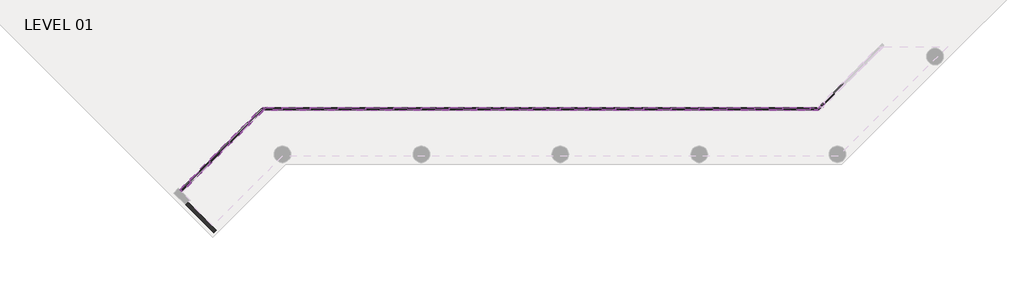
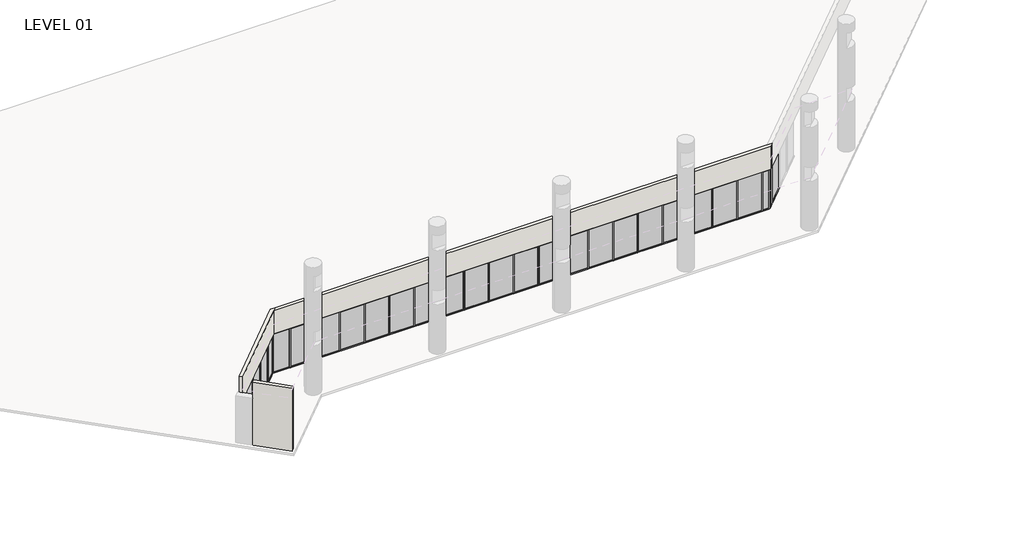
# One storey, part 1 of 24: 84 members, 28 plates, 3 walls.
"""IFC4 building model written with IfcOpenShell, lengths in millimetres."""

from ifc_helpers import new_model, si_unit, origin, origin_with_axes, place, context, project, spatial, polyline, outline, extrude, faceted_brep, transform, mapped, element, save
from components import member_5247f267, member_ed5eb8ce, member_16770488, member_1d3a199d, member_e44af9ab, member_800970d4, member_224475ab, plate_ce959b8d, plate_67294edd, plate_53ca565f, plate_8062c6fe, plate_43a54168, plate_1cd28498

model = new_model("IFC4")

# Units and contexts
model_context = context("Model", 3, world=origin())
ifc_project = project(units=[si_unit("LENGTHUNIT", "METRE", prefix="MILLI")], contexts=[model_context])

# Site, building, storey
site = spatial("IfcSite", under=ifc_project)
building = spatial("IfcBuilding", under=site)
storey = spatial("IfcBuildingStorey", under=building, Name="LEVEL 01", Elevation=0.0)

# Members
placement = place(None, origin())
member_shape = member_5247f267(model_context)
element("IfcMember", 1, ObjectType="Rectangular Mullion : 2\" x 4.5\" rectangular", at=placement, inside=storey, context=model_context, shape_type="MappedRepresentation", body=[
    mapped(member_shape, transform((18421.35, -2101.1671279, 0.0), x_axis=(0.0, 0.0, -1.0), y_axis=(0.0, -1.0, 0.0), z_axis=(-1.0, 0.0, 0.0))),
])
element("IfcMember", 2, ObjectType="Rectangular Mullion : 2\" x 4.5\" rectangular", at=placement, inside=storey, context=model_context, shape_type="MappedRepresentation", body=[
    mapped(member_shape, transform((19945.35, -2101.1671279, 0.0), x_axis=(0.0, 0.0, -1.0), y_axis=(0.0, -1.0, 0.0), z_axis=(-1.0, 0.0, 0.0))),
])
element("IfcMember", 3, ObjectType="Rectangular Mullion : 2\" x 4.5\" rectangular", at=placement, inside=storey, context=model_context, shape_type="MappedRepresentation", body=[
    mapped(member_shape, transform((24517.35, -2101.1671279, 0.0), x_axis=(0.0, 0.0, -1.0), y_axis=(0.0, -1.0, 0.0), z_axis=(-1.0, 0.0, 0.0))),
])
element("IfcMember", 4, ObjectType="Rectangular Mullion : 2\" x 4.5\" rectangular", at=placement, inside=storey, context=model_context, shape_type="MappedRepresentation", body=[
    mapped(member_shape, transform((16546.0133481, -2877.9592824, 0.0), x_axis=(0.0, 0.0, -1.0), y_axis=(-0.7071067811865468, 0.7071067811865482, 0.0), z_axis=(0.7071067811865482, 0.7071067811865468, 0.0))),
])
element("IfcMember", 5, ObjectType="Rectangular Mullion : 2\" x 4.5\" rectangular", at=placement, inside=storey, context=model_context, shape_type="MappedRepresentation", body=[
    mapped(member_shape, transform((26041.35, -2101.1671279, 0.0), x_axis=(0.0, 0.0, -1.0), y_axis=(0.0, -1.0, 0.0), z_axis=(-1.0, 0.0, 0.0))),
])
element("IfcMember", 6, ObjectType="Rectangular Mullion : 2\" x 4.5\" rectangular", at=placement, inside=storey, context=model_context, shape_type="MappedRepresentation", body=[
    mapped(member_shape, transform((30613.35, -2101.1671279, 0.0), x_axis=(0.0, 0.0, -1.0), y_axis=(0.0, -1.0, 0.0), z_axis=(-1.0, 0.0, 0.0))),
])
element("IfcMember", 7, ObjectType="Rectangular Mullion : 2\" x 4.5\" rectangular", at=placement, inside=storey, context=model_context, shape_type="MappedRepresentation", body=[
    mapped(member_shape, transform((32137.35, -2101.1671279, 0.0), x_axis=(0.0, 0.0, -1.0), y_axis=(0.0, -1.0, 0.0), z_axis=(-1.0, 0.0, 0.0))),
])
element("IfcMember", 8, ObjectType="Rectangular Mullion : 2\" x 4.5\" rectangular", at=placement, inside=storey, context=model_context, shape_type="MappedRepresentation", body=[
    mapped(member_shape, transform((35185.35, -2101.1671279, 0.0), x_axis=(0.0, 0.0, -1.0), y_axis=(0.0, -1.0, 0.0), z_axis=(-1.0, 0.0, 0.0))),
])
element("IfcMember", 9, ObjectType="Rectangular Mullion : 2\" x 4.5\" rectangular", at=placement, inside=storey, context=model_context, shape_type="MappedRepresentation", body=[
    mapped(member_shape, transform((38233.35, -2101.1671279, 0.0), x_axis=(0.0, 0.0, -1.0), y_axis=(0.0, -1.0, 0.0), z_axis=(-1.0, 0.0, 0.0))),
])
element("IfcMember", 10, ObjectType="Rectangular Mullion : 2\" x 4.5\" rectangular", at=placement, inside=storey, context=model_context, shape_type="MappedRepresentation", body=[
    mapped(member_shape, transform((41281.35, -2101.1671279, 0.0), x_axis=(0.0, 0.0, -1.0), y_axis=(0.0, -1.0, 0.0), z_axis=(-1.0, 0.0, 0.0))),
])
element("IfcMember", 11, ObjectType="Rectangular Mullion : 2\" x 4.5\" rectangular", at=placement, inside=storey, context=model_context, shape_type="MappedRepresentation", body=[
    mapped(member_shape, transform((45853.35, -2101.1671279, 0.0), x_axis=(0.0, 0.0, -1.0), y_axis=(0.0, -1.0, 0.0), z_axis=(-1.0, 0.0, 0.0))),
])
element("IfcMember", 12, ObjectType="Rectangular Mullion : 2\" x 4.5\" rectangular", at=placement, inside=storey, context=model_context, shape_type="MappedRepresentation", body=[
    mapped(member_shape, transform((14390.7518791, -5033.2207514, 0.0), x_axis=(0.0, 0.0, -1.0), y_axis=(-0.7071067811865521, 0.707106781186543, 0.0), z_axis=(0.707106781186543, 0.7071067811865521, 0.0))),
])
element("IfcMember", 13, ObjectType="Rectangular Mullion : 2\" x 4.5\" rectangular", at=placement, inside=storey, context=model_context, shape_type="MappedRepresentation", body=[
    mapped(member_shape, transform((21469.35, -2101.1671279, 0.0), x_axis=(0.0, 0.0, -1.0), y_axis=(0.0, -1.0, 0.0), z_axis=(-1.0, 0.0, 0.0))),
])
element("IfcMember", 14, ObjectType="Rectangular Mullion : 2\" x 4.5\" rectangular", at=placement, inside=storey, context=model_context, shape_type="MappedRepresentation", body=[
    mapped(member_shape, transform((22993.35, -2101.1671279, 0.0), x_axis=(0.0, 0.0, -1.0), y_axis=(0.0, -1.0, 0.0), z_axis=(-1.0, 0.0, 0.0))),
])
element("IfcMember", 15, ObjectType="Rectangular Mullion : 2\" x 4.5\" rectangular", at=placement, inside=storey, context=model_context, shape_type="MappedRepresentation", body=[
    mapped(member_shape, transform((27565.35, -2101.1671279, 0.0), x_axis=(0.0, 0.0, -1.0), y_axis=(0.0, -1.0, 0.0), z_axis=(-1.0, 0.0, 0.0))),
])
element("IfcMember", 16, ObjectType="Rectangular Mullion : 2\" x 4.5\" rectangular", at=placement, inside=storey, context=model_context, shape_type="MappedRepresentation", body=[
    mapped(member_shape, transform((29089.35, -2101.1671279, 0.0), x_axis=(0.0, 0.0, -1.0), y_axis=(0.0, -1.0, 0.0), z_axis=(-1.0, 0.0, 0.0))),
])
element("IfcMember", 17, ObjectType="Rectangular Mullion : 2\" x 4.5\" rectangular", at=placement, inside=storey, context=model_context, shape_type="MappedRepresentation", body=[
    mapped(member_shape, transform((33661.35, -2101.1671279, 0.0), x_axis=(0.0, 0.0, -1.0), y_axis=(0.0, -1.0, 0.0), z_axis=(-1.0, 0.0, 0.0))),
])
element("IfcMember", 18, ObjectType="Rectangular Mullion : 2\" x 4.5\" rectangular", at=placement, inside=storey, context=model_context, shape_type="MappedRepresentation", body=[
    mapped(member_shape, transform((36709.35, -2101.1671279, 0.0), x_axis=(0.0, 0.0, -1.0), y_axis=(0.0, -1.0, 0.0), z_axis=(-1.0, 0.0, 0.0))),
])
element("IfcMember", 19, ObjectType="Rectangular Mullion : 2\" x 4.5\" rectangular", at=placement, inside=storey, context=model_context, shape_type="MappedRepresentation", body=[
    mapped(member_shape, transform((39757.35, -2101.1671279, 0.0), x_axis=(0.0, 0.0, -1.0), y_axis=(0.0, -1.0, 0.0), z_axis=(-1.0, 0.0, 0.0))),
])
element("IfcMember", 20, ObjectType="Rectangular Mullion : 2\" x 4.5\" rectangular", at=placement, inside=storey, context=model_context, shape_type="MappedRepresentation", body=[
    mapped(member_shape, transform((42805.35, -2101.1671279, 0.0), x_axis=(0.0, 0.0, -1.0), y_axis=(0.0, -1.0, 0.0), z_axis=(-1.0, 0.0, 0.0))),
])
element("IfcMember", 21, ObjectType="Rectangular Mullion : 2\" x 4.5\" rectangular", at=placement, inside=storey, context=model_context, shape_type="MappedRepresentation", body=[
    mapped(member_shape, transform((44329.35, -2101.1671279, 0.0), x_axis=(0.0, 0.0, -1.0), y_axis=(0.0, -1.0, 0.0), z_axis=(-1.0, 0.0, 0.0))),
])
element("IfcMember", 22, ObjectType="Rectangular Mullion : 2\" x 4.5\" rectangular", at=placement, inside=storey, context=model_context, shape_type="MappedRepresentation", body=[
    mapped(member_shape, transform((48139.3903254, -1764.5823051, 0.0), x_axis=(0.0, 0.0, -1.0), y_axis=(0.7071067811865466, -0.7071067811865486, 0.0), z_axis=(-0.7071067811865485, -0.7071067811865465, 0.0))),
])
element("IfcMember", 23, ObjectType="Rectangular Mullion : 2\" x 4.5\" rectangular", at=placement, inside=storey, context=model_context, shape_type="MappedRepresentation", body=[
    mapped(member_shape, transform((15468.3826136, -3955.5900169, 0.0), x_axis=(0.0, 0.0, -1.0), y_axis=(-0.7071067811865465, 0.7071067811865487, 0.0), z_axis=(0.7071067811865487, 0.7071067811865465, 0.0))),
])
element("IfcMember", 24, ObjectType="Rectangular Mullion : 2\" x 4.5\" rectangular", at=placement, inside=storey, context=model_context, shape_type="MappedRepresentation", body=[
    mapped(member_shape, transform((19894.55, -2101.1671279, 2590.8), x_axis=(0.0, 0.0, 1.0), y_axis=(0.0, -1.0, 0.0), z_axis=(1.0, 0.0, 0.0))),
])
element("IfcMember", 25, ObjectType="Rectangular Mullion : 2\" x 4.5\" rectangular", at=placement, inside=storey, context=model_context, shape_type="MappedRepresentation", body=[
    mapped(member_shape, transform((24466.55, -2101.1671279, 2590.8), x_axis=(0.0, 0.0, 1.0), y_axis=(0.0, -1.0, 0.0), z_axis=(1.0, 0.0, 0.0))),
])
element("IfcMember", 26, ObjectType="Rectangular Mullion : 2\" x 4.5\" rectangular", at=placement, inside=storey, context=model_context, shape_type="MappedRepresentation", body=[
    mapped(member_shape, transform((25990.55, -2101.1671279, 2590.8), x_axis=(0.0, 0.0, 1.0), y_axis=(0.0, -1.0, 0.0), z_axis=(1.0, 0.0, 0.0))),
])
element("IfcMember", 27, ObjectType="Rectangular Mullion : 2\" x 4.5\" rectangular", at=placement, inside=storey, context=model_context, shape_type="MappedRepresentation", body=[
    mapped(member_shape, transform((30562.55, -2101.1671279, 2590.8), x_axis=(0.0, 0.0, 1.0), y_axis=(0.0, -1.0, 0.0), z_axis=(1.0, 0.0, 0.0))),
])
element("IfcMember", 28, ObjectType="Rectangular Mullion : 2\" x 4.5\" rectangular", at=placement, inside=storey, context=model_context, shape_type="MappedRepresentation", body=[
    mapped(member_shape, transform((32086.55, -2101.1671279, 2590.8), x_axis=(0.0, 0.0, 1.0), y_axis=(0.0, -1.0, 0.0), z_axis=(1.0, 0.0, 0.0))),
])
element("IfcMember", 29, ObjectType="Rectangular Mullion : 2\" x 4.5\" rectangular", at=placement, inside=storey, context=model_context, shape_type="MappedRepresentation", body=[
    mapped(member_shape, transform((35134.55, -2101.1671279, 2590.8), x_axis=(0.0, 0.0, 1.0), y_axis=(0.0, -1.0, 0.0), z_axis=(1.0, 0.0, 0.0))),
])
element("IfcMember", 30, ObjectType="Rectangular Mullion : 2\" x 4.5\" rectangular", at=placement, inside=storey, context=model_context, shape_type="MappedRepresentation", body=[
    mapped(member_shape, transform((38182.55, -2101.1671279, 2590.8), x_axis=(0.0, 0.0, 1.0), y_axis=(0.0, -1.0, 0.0), z_axis=(1.0, 0.0, 0.0))),
])
element("IfcMember", 31, ObjectType="Rectangular Mullion : 2\" x 4.5\" rectangular", at=placement, inside=storey, context=model_context, shape_type="MappedRepresentation", body=[
    mapped(member_shape, transform((41230.55, -2101.1671279, 2590.8), x_axis=(0.0, 0.0, 1.0), y_axis=(0.0, -1.0, 0.0), z_axis=(1.0, 0.0, 0.0))),
])
element("IfcMember", 32, ObjectType="Rectangular Mullion : 2\" x 4.5\" rectangular", at=placement, inside=storey, context=model_context, shape_type="MappedRepresentation", body=[
    mapped(member_shape, transform((45802.55, -2101.1671279, 2590.8), x_axis=(0.0, 0.0, 1.0), y_axis=(0.0, -1.0, 0.0), z_axis=(1.0, 0.0, 0.0))),
])
element("IfcMember", 33, ObjectType="Rectangular Mullion : 2\" x 4.5\" rectangular", at=placement, inside=storey, context=model_context, shape_type="MappedRepresentation", body=[
    mapped(member_shape, transform((14426.6729036, -4997.2997269, 2590.8), x_axis=(0.0, 0.0, 1.0), y_axis=(-0.7071067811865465, 0.7071067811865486, 0.0), z_axis=(-0.7071067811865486, -0.7071067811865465, 0.0))),
])
element("IfcMember", 34, ObjectType="Rectangular Mullion : 2\" x 4.5\" rectangular", at=placement, inside=storey, context=model_context, shape_type="MappedRepresentation", body=[
    mapped(member_shape, transform((21418.55, -2101.1671279, 2590.8), x_axis=(0.0, 0.0, 1.0), y_axis=(0.0, -1.0, 0.0), z_axis=(1.0, 0.0, 0.0))),
])
element("IfcMember", 35, ObjectType="Rectangular Mullion : 2\" x 4.5\" rectangular", at=placement, inside=storey, context=model_context, shape_type="MappedRepresentation", body=[
    mapped(member_shape, transform((22942.55, -2101.1671279, 2590.8), x_axis=(0.0, 0.0, 1.0), y_axis=(0.0, -1.0, 0.0), z_axis=(1.0, 0.0, 0.0))),
])
element("IfcMember", 36, ObjectType="Rectangular Mullion : 2\" x 4.5\" rectangular", at=placement, inside=storey, context=model_context, shape_type="MappedRepresentation", body=[
    mapped(member_shape, transform((27514.55, -2101.1671279, 2590.8), x_axis=(0.0, 0.0, 1.0), y_axis=(0.0, -1.0, 0.0), z_axis=(1.0, 0.0, 0.0))),
])
element("IfcMember", 37, ObjectType="Rectangular Mullion : 2\" x 4.5\" rectangular", at=placement, inside=storey, context=model_context, shape_type="MappedRepresentation", body=[
    mapped(member_shape, transform((29038.55, -2101.1671279, 2590.8), x_axis=(0.0, 0.0, 1.0), y_axis=(0.0, -1.0, 0.0), z_axis=(1.0, 0.0, 0.0))),
])
element("IfcMember", 38, ObjectType="Rectangular Mullion : 2\" x 4.5\" rectangular", at=placement, inside=storey, context=model_context, shape_type="MappedRepresentation", body=[
    mapped(member_shape, transform((33610.55, -2101.1671279, 2590.8), x_axis=(0.0, 0.0, 1.0), y_axis=(0.0, -1.0, 0.0), z_axis=(1.0, 0.0, 0.0))),
])
element("IfcMember", 39, ObjectType="Rectangular Mullion : 2\" x 4.5\" rectangular", at=placement, inside=storey, context=model_context, shape_type="MappedRepresentation", body=[
    mapped(member_shape, transform((36658.55, -2101.1671279, 2590.8), x_axis=(0.0, 0.0, 1.0), y_axis=(0.0, -1.0, 0.0), z_axis=(1.0, 0.0, 0.0))),
])
element("IfcMember", 40, ObjectType="Rectangular Mullion : 2\" x 4.5\" rectangular", at=placement, inside=storey, context=model_context, shape_type="MappedRepresentation", body=[
    mapped(member_shape, transform((39706.55, -2101.1671279, 2590.8), x_axis=(0.0, 0.0, 1.0), y_axis=(0.0, -1.0, 0.0), z_axis=(1.0, 0.0, 0.0))),
])
element("IfcMember", 41, ObjectType="Rectangular Mullion : 2\" x 4.5\" rectangular", at=placement, inside=storey, context=model_context, shape_type="MappedRepresentation", body=[
    mapped(member_shape, transform((42754.55, -2101.1671279, 2590.8), x_axis=(0.0, 0.0, 1.0), y_axis=(0.0, -1.0, 0.0), z_axis=(1.0, 0.0, 0.0))),
])
element("IfcMember", 42, ObjectType="Rectangular Mullion : 2\" x 4.5\" rectangular", at=placement, inside=storey, context=model_context, shape_type="MappedRepresentation", body=[
    mapped(member_shape, transform((44278.55, -2101.1671279, 2590.8), x_axis=(0.0, 0.0, 1.0), y_axis=(0.0, -1.0, 0.0), z_axis=(1.0, 0.0, 0.0))),
])
element("IfcMember", 43, ObjectType="Rectangular Mullion : 2\" x 4.5\" rectangular", at=placement, inside=storey, context=model_context, shape_type="MappedRepresentation", body=[
    mapped(member_shape, transform((47326.55, -2101.1671279, 2590.8), x_axis=(0.0, 0.0, 1.0), y_axis=(0.0, -1.0, 0.0), z_axis=(1.0, 0.0, 0.0))),
])
element("IfcMember", 44, ObjectType="Rectangular Mullion : 2\" x 4.5\" rectangular", at=placement, inside=storey, context=model_context, shape_type="MappedRepresentation", body=[
    mapped(member_shape, transform((15504.3036381, -3919.6689924, 2590.8), x_axis=(0.0, 0.0, 1.0), y_axis=(-0.7071067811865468, 0.7071067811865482, 0.0), z_axis=(-0.7071067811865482, -0.7071067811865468, 0.0))),
])
element("IfcMember", 45, ObjectType="Rectangular Mullion : 2\" x 4.5\" rectangular", at=placement, inside=storey, context=model_context, shape_type="MappedRepresentation", body=[
    mapped(member_shape, transform((13349.042169, -6074.9304615, 2590.8), x_axis=(0.0, 0.0, 1.0), y_axis=(-0.7071067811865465, 0.7071067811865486, 0.0), z_axis=(-0.7071067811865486, -0.7071067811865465, 0.0))),
])
member_2_shape = member_ed5eb8ce(model_context)
element("IfcMember", 46, ObjectType="Rectangular Mullion : 2\" x 4.5\" rectangular", at=placement, inside=storey, context=model_context, shape_type="MappedRepresentation", body=[
    mapped(member_2_shape, transform((18370.55, -2101.1671279, 2590.8), x_axis=(0.0, 0.0, 1.0), y_axis=(0.0, -1.0, 0.0), z_axis=(1.0, 0.0, 0.0))),
])
element("IfcMember", 47, ObjectType="Rectangular Mullion : 2\" x 4.5\" rectangular", at=placement, inside=storey, context=model_context, shape_type="MappedRepresentation", body=[
    mapped(member_2_shape, transform((16581.9343726, -2842.0382579, 2590.8), x_axis=(0.0, 0.0, 1.0), y_axis=(-0.7071067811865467, 0.7071067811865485, 0.0), z_axis=(-0.7071067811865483, -0.7071067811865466, 0.0))),
])
element("IfcMember", 48, ObjectType="Rectangular Mullion : 2\" x 4.5\" rectangular", at=placement, inside=storey, context=model_context, shape_type="MappedRepresentation", body=[
    mapped(member_2_shape, transform((17373.6055026, -2101.1671279, 0.0), x_axis=(0.0, 0.0, -1.0), y_axis=(0.0, -1.0, 0.0), z_axis=(-1.0, 0.0, 0.0))),
])
element("IfcMember", 49, ObjectType="Rectangular Mullion : 2\" x 4.5\" rectangular", at=placement, inside=storey, context=model_context, shape_type="MappedRepresentation", body=[
    mapped(member_2_shape, transform((17286.8844781, -2137.0881524, 0.0), x_axis=(0.0, 0.0, -1.0), y_axis=(-0.7071067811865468, 0.7071067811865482, 0.0), z_axis=(0.7071067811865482, 0.7071067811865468, 0.0))),
])
member_3_shape = member_16770488(model_context)
element("IfcMember", 50, ObjectType="Rectangular Mullion : 2\" x 4.5\" rectangular", at=placement, inside=storey, context=model_context, shape_type="MappedRepresentation", body=[
    mapped(member_3_shape, transform((47752.0055026, -2101.1671279, 2590.8), x_axis=(0.0, 0.0, 1.0), y_axis=(0.0, -1.0, 0.0), z_axis=(1.0, 0.0, 0.0))),
])
element("IfcMember", 51, ObjectType="Rectangular Mullion : 2\" x 4.5\" rectangular", at=placement, inside=storey, context=model_context, shape_type="MappedRepresentation", body=[
    mapped(member_3_shape, transform((47377.35, -2101.1671279, 0.0), x_axis=(0.0, 0.0, -1.0), y_axis=(0.0, -1.0, 0.0), z_axis=(-1.0, 0.0, 0.0))),
])
member_4_shape = member_1d3a199d(model_context)
element("IfcMember", 52, ObjectType="Rectangular Mullion : 2\" x 4.5\" rectangular", at=placement, inside=storey, context=model_context, shape_type="MappedRepresentation", body=[
    mapped(member_4_shape, transform((47838.7265271, -2065.2461034, 0.0), x_axis=(0.0, 0.0, -1.0), y_axis=(0.7071067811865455, -0.7071067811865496, 0.0), z_axis=(-0.7071067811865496, -0.7071067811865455, 0.0))),
])
element("IfcMember", 53, ObjectType="Rectangular Mullion : 2\" x 4.5\" rectangular", at=placement, inside=storey, context=model_context, shape_type="MappedRepresentation", body=[
    mapped(member_4_shape, transform((48103.4693009, -1800.5033295, 2590.8), x_axis=(0.0, 0.0, 1.0), y_axis=(0.7071067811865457, -0.7071067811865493, 0.0), z_axis=(0.7071067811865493, 0.7071067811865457, 0.0))),
])
member_5_shape = member_e44af9ab(model_context)
element("IfcMember", 54, ObjectType="Rectangular Mullion : 2\" x 4.5\" rectangular", at=placement, inside=storey, context=model_context, shape_type="MappedRepresentation", body=[
    mapped(member_5_shape, transform((18395.95, -2101.1671279, 0.0), x_axis=(1.0, 0.0, 0.0), y_axis=(0.0, -1.0, 0.0), z_axis=(0.0, 0.0, -1.0))),
])
element("IfcMember", 55, ObjectType="Rectangular Mullion : 2\" x 4.5\" rectangular", at=placement, inside=storey, context=model_context, shape_type="MappedRepresentation", body=[
    mapped(member_5_shape, transform((19919.95, -2101.1671279, 0.0), x_axis=(1.0, 0.0, 0.0), y_axis=(0.0, -1.0, 0.0), z_axis=(0.0, 0.0, -1.0))),
])
element("IfcMember", 56, ObjectType="Rectangular Mullion : 2\" x 4.5\" rectangular", at=placement, inside=storey, context=model_context, shape_type="MappedRepresentation", body=[
    mapped(member_5_shape, transform((24491.95, -2101.1671279, 0.0), x_axis=(1.0, 0.0, 0.0), y_axis=(0.0, -1.0, 0.0), z_axis=(0.0, 0.0, -1.0))),
])
element("IfcMember", 57, ObjectType="Rectangular Mullion : 2\" x 4.5\" rectangular", at=placement, inside=storey, context=model_context, shape_type="MappedRepresentation", body=[
    mapped(member_5_shape, transform((16563.9738604, -2859.9987701, 0.0), x_axis=(-0.7071067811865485, -0.7071067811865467, 0.0), y_axis=(-0.7071067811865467, 0.7071067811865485, 0.0), z_axis=(0.0, 0.0, -1.0))),
])
element("IfcMember", 58, ObjectType="Rectangular Mullion : 2\" x 4.5\" rectangular", at=placement, inside=storey, context=model_context, shape_type="MappedRepresentation", body=[
    mapped(member_5_shape, transform((26015.95, -2101.1671279, 0.0), x_axis=(1.0, 0.0, 0.0), y_axis=(0.0, -1.0, 0.0), z_axis=(0.0, 0.0, -1.0))),
])
element("IfcMember", 59, ObjectType="Rectangular Mullion : 2\" x 4.5\" rectangular", at=placement, inside=storey, context=model_context, shape_type="MappedRepresentation", body=[
    mapped(member_5_shape, transform((30587.95, -2101.1671279, 0.0), x_axis=(1.0, 0.0, 0.0), y_axis=(0.0, -1.0, 0.0), z_axis=(0.0, 0.0, -1.0))),
])
element("IfcMember", 60, ObjectType="Rectangular Mullion : 2\" x 4.5\" rectangular", at=placement, inside=storey, context=model_context, shape_type="MappedRepresentation", body=[
    mapped(member_5_shape, transform((32111.95, -2101.1671279, 0.0), x_axis=(1.0, 0.0, 0.0), y_axis=(0.0, -1.0, 0.0), z_axis=(0.0, 0.0, -1.0))),
])
element("IfcMember", 61, ObjectType="Rectangular Mullion : 2\" x 4.5\" rectangular", at=placement, inside=storey, context=model_context, shape_type="MappedRepresentation", body=[
    mapped(member_5_shape, transform((35159.95, -2101.1671279, 0.0), x_axis=(1.0, 0.0, 0.0), y_axis=(0.0, -1.0, 0.0), z_axis=(0.0, 0.0, -1.0))),
])
element("IfcMember", 62, ObjectType="Rectangular Mullion : 2\" x 4.5\" rectangular", at=placement, inside=storey, context=model_context, shape_type="MappedRepresentation", body=[
    mapped(member_5_shape, transform((38207.95, -2101.1671279, 0.0), x_axis=(1.0, 0.0, 0.0), y_axis=(0.0, -1.0, 0.0), z_axis=(0.0, 0.0, -1.0))),
])
element("IfcMember", 63, ObjectType="Rectangular Mullion : 2\" x 4.5\" rectangular", at=placement, inside=storey, context=model_context, shape_type="MappedRepresentation", body=[
    mapped(member_5_shape, transform((41255.95, -2101.1671279, 0.0), x_axis=(1.0, 0.0, 0.0), y_axis=(0.0, -1.0, 0.0), z_axis=(0.0, 0.0, -1.0))),
])
element("IfcMember", 64, ObjectType="Rectangular Mullion : 2\" x 4.5\" rectangular", at=placement, inside=storey, context=model_context, shape_type="MappedRepresentation", body=[
    mapped(member_5_shape, transform((42779.95, -2101.1671279, 0.0), x_axis=(1.0, 0.0, 0.0), y_axis=(0.0, -1.0, 0.0), z_axis=(0.0, 0.0, -1.0))),
])
element("IfcMember", 65, ObjectType="Rectangular Mullion : 2\" x 4.5\" rectangular", at=placement, inside=storey, context=model_context, shape_type="MappedRepresentation", body=[
    mapped(member_5_shape, transform((45827.95, -2101.1671279, 0.0), x_axis=(1.0, 0.0, 0.0), y_axis=(0.0, -1.0, 0.0), z_axis=(0.0, 0.0, -1.0))),
])
element("IfcMember", 66, ObjectType="Rectangular Mullion : 2\" x 4.5\" rectangular", at=placement, inside=storey, context=model_context, shape_type="MappedRepresentation", body=[
    mapped(member_5_shape, transform((14408.7123913, -5015.2602392, 0.0), x_axis=(-0.7071067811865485, -0.7071067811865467, 0.0), y_axis=(-0.7071067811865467, 0.7071067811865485, 0.0), z_axis=(0.0, 0.0, -1.0))),
])
element("IfcMember", 67, ObjectType="Rectangular Mullion : 2\" x 4.5\" rectangular", at=placement, inside=storey, context=model_context, shape_type="MappedRepresentation", body=[
    mapped(member_5_shape, transform((21443.95, -2101.1671279, 0.0), x_axis=(1.0, 0.0, 0.0), y_axis=(0.0, -1.0, 0.0), z_axis=(0.0, 0.0, -1.0))),
])
element("IfcMember", 68, ObjectType="Rectangular Mullion : 2\" x 4.5\" rectangular", at=placement, inside=storey, context=model_context, shape_type="MappedRepresentation", body=[
    mapped(member_5_shape, transform((22967.95, -2101.1671279, 0.0), x_axis=(1.0, 0.0, 0.0), y_axis=(0.0, -1.0, 0.0), z_axis=(0.0, 0.0, -1.0))),
])
element("IfcMember", 69, ObjectType="Rectangular Mullion : 2\" x 4.5\" rectangular", at=placement, inside=storey, context=model_context, shape_type="MappedRepresentation", body=[
    mapped(member_5_shape, transform((27539.95, -2101.1671279, 0.0), x_axis=(1.0, 0.0, 0.0), y_axis=(0.0, -1.0, 0.0), z_axis=(0.0, 0.0, -1.0))),
])
element("IfcMember", 70, ObjectType="Rectangular Mullion : 2\" x 4.5\" rectangular", at=placement, inside=storey, context=model_context, shape_type="MappedRepresentation", body=[
    mapped(member_5_shape, transform((29063.95, -2101.1671279, 0.0), x_axis=(1.0, 0.0, 0.0), y_axis=(0.0, -1.0, 0.0), z_axis=(0.0, 0.0, -1.0))),
])
element("IfcMember", 71, ObjectType="Rectangular Mullion : 2\" x 4.5\" rectangular", at=placement, inside=storey, context=model_context, shape_type="MappedRepresentation", body=[
    mapped(member_5_shape, transform((33635.95, -2101.1671279, 0.0), x_axis=(1.0, 0.0, 0.0), y_axis=(0.0, -1.0, 0.0), z_axis=(0.0, 0.0, -1.0))),
])
element("IfcMember", 72, ObjectType="Rectangular Mullion : 2\" x 4.5\" rectangular", at=placement, inside=storey, context=model_context, shape_type="MappedRepresentation", body=[
    mapped(member_5_shape, transform((36683.95, -2101.1671279, 0.0), x_axis=(1.0, 0.0, 0.0), y_axis=(0.0, -1.0, 0.0), z_axis=(0.0, 0.0, -1.0))),
])
element("IfcMember", 73, ObjectType="Rectangular Mullion : 2\" x 4.5\" rectangular", at=placement, inside=storey, context=model_context, shape_type="MappedRepresentation", body=[
    mapped(member_5_shape, transform((39731.95, -2101.1671279, 0.0), x_axis=(1.0, 0.0, 0.0), y_axis=(0.0, -1.0, 0.0), z_axis=(0.0, 0.0, -1.0))),
])
element("IfcMember", 74, ObjectType="Rectangular Mullion : 2\" x 4.5\" rectangular", at=placement, inside=storey, context=model_context, shape_type="MappedRepresentation", body=[
    mapped(member_5_shape, transform((44303.95, -2101.1671279, 0.0), x_axis=(1.0, 0.0, 0.0), y_axis=(0.0, -1.0, 0.0), z_axis=(0.0, 0.0, -1.0))),
])
element("IfcMember", 75, ObjectType="Rectangular Mullion : 2\" x 4.5\" rectangular", at=placement, inside=storey, context=model_context, shape_type="MappedRepresentation", body=[
    mapped(member_5_shape, transform((47351.95, -2101.1671279, 0.0), x_axis=(1.0, 0.0, 0.0), y_axis=(0.0, -1.0, 0.0), z_axis=(0.0, 0.0, -1.0))),
])
element("IfcMember", 76, ObjectType="Rectangular Mullion : 2\" x 4.5\" rectangular", at=placement, inside=storey, context=model_context, shape_type="MappedRepresentation", body=[
    mapped(member_5_shape, transform((15486.3431258, -3937.6295046, 0.0), x_axis=(-0.7071067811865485, -0.7071067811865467, 0.0), y_axis=(-0.7071067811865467, 0.7071067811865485, 0.0), z_axis=(0.0, 0.0, -1.0))),
])
element("IfcMember", 77, ObjectType="Rectangular Mullion : 2\" x 4.5\" rectangular", at=placement, inside=storey, context=model_context, shape_type="MappedRepresentation", body=[
    mapped(member_5_shape, transform((13331.0816568, -6092.8909737, 0.0), x_axis=(-0.7071067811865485, -0.7071067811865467, 0.0), y_axis=(-0.7071067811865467, 0.7071067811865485, 0.0), z_axis=(0.0, 0.0, -1.0))),
])
member_6_shape = member_800970d4(model_context)
element("IfcMember", 78, ObjectType="Rectangular Mullion : 2\" x 4.5\" rectangular", at=placement, inside=storey, context=model_context, shape_type="MappedRepresentation", body=[
    mapped(member_6_shape, transform((47802.8055026, -2101.1671279, 0.0), x_axis=(1.0, 0.0, 0.0), y_axis=(0.0, -1.0, 0.0), z_axis=(0.0, 0.0, -1.0))),
])
element("IfcMember", 79, ObjectType="Rectangular Mullion : 2\" x 4.5\" rectangular", at=placement, inside=storey, context=model_context, shape_type="MappedRepresentation", body=[
    mapped(member_6_shape, transform((12825.8198003, -6598.1528302, 0.0), x_axis=(-0.7071067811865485, -0.7071067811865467, 0.0), y_axis=(-0.7071067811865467, 0.7071067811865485, 0.0), z_axis=(0.0, 0.0, -1.0))),
])
element("IfcMember", 80, ObjectType="Rectangular Mullion : 2\" x 4.5\" rectangular", at=placement, inside=storey, context=model_context, shape_type="MappedRepresentation", body=[
    mapped(member_6_shape, transform((17322.8055026, -2101.1671279, 2590.8), x_axis=(-1.0, 0.0, 0.0), y_axis=(0.0, -1.0, 0.0), z_axis=(0.0, 0.0, 1.0))),
])
element("IfcMember", 81, ObjectType="Rectangular Mullion : 2\" x 4.5\" rectangular", at=placement, inside=storey, context=model_context, shape_type="MappedRepresentation", body=[
    mapped(member_6_shape, transform((17322.8055026, -2101.1671279, 2590.8), x_axis=(0.7071067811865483, 0.7071067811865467, 0.0), y_axis=(-0.7071067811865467, 0.7071067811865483, 0.0), z_axis=(0.0, 0.0, 1.0))),
])
element("IfcMember", 82, ObjectType="Rectangular Mullion : 2\" x 4.5\" rectangular", at=placement, inside=storey, context=model_context, shape_type="MappedRepresentation", body=[
    mapped(member_6_shape, transform((47802.8055026, -2101.1671279, 2590.8), x_axis=(-0.7071067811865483, -0.7071067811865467, 0.0), y_axis=(0.7071067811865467, -0.7071067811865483, 0.0), z_axis=(0.0, 0.0, 1.0))),
])
member_7_shape = member_224475ab(model_context)
element("IfcMember", 83, ObjectType="Rectangular Mullion : 2\" x 4.5\" rectangular", at=placement, inside=storey, context=model_context, shape_type="MappedRepresentation", body=[
    mapped(member_7_shape, transform((12861.7408248, -6562.2318057, 2590.8), x_axis=(0.0, 0.0, 1.0), y_axis=(-0.7071067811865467, 0.7071067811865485, 0.0), z_axis=(-0.7071067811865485, -0.7071067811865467, 0.0))),
])
element("IfcMember", 84, ObjectType="Rectangular Mullion : 2\" x 4.5\" rectangular", at=placement, inside=storey, context=model_context, shape_type="MappedRepresentation", body=[
    mapped(member_7_shape, transform((13313.1211445, -6110.8514859, 0.0), x_axis=(0.0, 0.0, -1.0), y_axis=(-0.7071067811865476, 0.7071067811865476, 0.0), z_axis=(0.7071067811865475, 0.7071067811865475, 0.0))),
])

# Plates
plate_shape = plate_ce959b8d(model_context)
element("IfcPlate", 85, ObjectType="System Panel : 1/4\" Glass", at=placement, inside=storey, context=model_context, shape_type="MappedRepresentation", body=[
    mapped(plate_shape, transform((17872.0777513, -2101.1671279, 50.8), x_axis=(1.0, 0.0, 0.0), y_axis=(0.0, 1.0, 0.0), z_axis=(0.0, 0.0, 1.0))),
])
plate_2_shape = plate_67294edd(model_context)
element("IfcPlate", 86, ObjectType="System Panel : 1/4\" Glass", at=placement, inside=storey, context=model_context, shape_type="MappedRepresentation", body=[
    mapped(plate_2_shape, transform((19157.95, -2101.1671279, 50.8), x_axis=(1.0, 0.0, 0.0), y_axis=(0.0, 1.0, 0.0), z_axis=(0.0, 0.0, 1.0))),
])
element("IfcPlate", 87, ObjectType="System Panel : 1/4\" Glass", at=placement, inside=storey, context=model_context, shape_type="MappedRepresentation", body=[
    mapped(plate_2_shape, transform((20681.95, -2101.1671279, 50.8), x_axis=(1.0, 0.0, 0.0), y_axis=(0.0, 1.0, 0.0), z_axis=(0.0, 0.0, 1.0))),
])
element("IfcPlate", 88, ObjectType="System Panel : 1/4\" Glass", at=placement, inside=storey, context=model_context, shape_type="MappedRepresentation", body=[
    mapped(plate_2_shape, transform((25253.95, -2101.1671279, 50.8), x_axis=(1.0, 0.0, 0.0), y_axis=(0.0, 1.0, 0.0), z_axis=(0.0, 0.0, 1.0))),
])
element("IfcPlate", 89, ObjectType="System Panel : 1/4\" Glass", at=placement, inside=storey, context=model_context, shape_type="MappedRepresentation", body=[
    mapped(plate_2_shape, transform((16025.1584931, -3398.8141374, 50.8), x_axis=(-0.7071067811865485, -0.7071067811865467, 0.0), y_axis=(0.7071067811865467, -0.7071067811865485, 0.0), z_axis=(0.0, 0.0, 1.0))),
])
element("IfcPlate", 90, ObjectType="System Panel : 1/4\" Glass", at=placement, inside=storey, context=model_context, shape_type="MappedRepresentation", body=[
    mapped(plate_2_shape, transform((26777.95, -2101.1671279, 50.8), x_axis=(1.0, 0.0, 0.0), y_axis=(0.0, 1.0, 0.0), z_axis=(0.0, 0.0, 1.0))),
])
element("IfcPlate", 91, ObjectType="System Panel : 1/4\" Glass", at=placement, inside=storey, context=model_context, shape_type="MappedRepresentation", body=[
    mapped(plate_2_shape, transform((31349.95, -2101.1671279, 50.8), x_axis=(1.0, 0.0, 0.0), y_axis=(0.0, 1.0, 0.0), z_axis=(0.0, 0.0, 1.0))),
])
element("IfcPlate", 92, ObjectType="System Panel : 1/4\" Glass", at=placement, inside=storey, context=model_context, shape_type="MappedRepresentation", body=[
    mapped(plate_2_shape, transform((32873.95, -2101.1671279, 50.8), x_axis=(1.0, 0.0, 0.0), y_axis=(0.0, 1.0, 0.0), z_axis=(0.0, 0.0, 1.0))),
])
element("IfcPlate", 93, ObjectType="System Panel : 1/4\" Glass", at=placement, inside=storey, context=model_context, shape_type="MappedRepresentation", body=[
    mapped(plate_2_shape, transform((35921.95, -2101.1671279, 50.8), x_axis=(1.0, 0.0, 0.0), y_axis=(0.0, 1.0, 0.0), z_axis=(0.0, 0.0, 1.0))),
])
element("IfcPlate", 94, ObjectType="System Panel : 1/4\" Glass", at=placement, inside=storey, context=model_context, shape_type="MappedRepresentation", body=[
    mapped(plate_2_shape, transform((38969.95, -2101.1671279, 50.8), x_axis=(1.0, 0.0, 0.0), y_axis=(0.0, 1.0, 0.0), z_axis=(0.0, 0.0, 1.0))),
])
element("IfcPlate", 95, ObjectType="System Panel : 1/4\" Glass", at=placement, inside=storey, context=model_context, shape_type="MappedRepresentation", body=[
    mapped(plate_2_shape, transform((42017.95, -2101.1671279, 50.8), x_axis=(1.0, 0.0, 0.0), y_axis=(0.0, 1.0, 0.0), z_axis=(0.0, 0.0, 1.0))),
])
element("IfcPlate", 96, ObjectType="System Panel : 1/4\" Glass", at=placement, inside=storey, context=model_context, shape_type="MappedRepresentation", body=[
    mapped(plate_2_shape, transform((43541.95, -2101.1671279, 50.8), x_axis=(1.0, 0.0, 0.0), y_axis=(0.0, 1.0, 0.0), z_axis=(0.0, 0.0, 1.0))),
])
element("IfcPlate", 97, ObjectType="System Panel : 1/4\" Glass", at=placement, inside=storey, context=model_context, shape_type="MappedRepresentation", body=[
    mapped(plate_2_shape, transform((46589.95, -2101.1671279, 50.8), x_axis=(1.0, 0.0, 0.0), y_axis=(0.0, 1.0, 0.0), z_axis=(0.0, 0.0, 1.0))),
])
element("IfcPlate", 98, ObjectType="System Panel : 1/4\" Glass", at=placement, inside=storey, context=model_context, shape_type="MappedRepresentation", body=[
    mapped(plate_2_shape, transform((13869.8970241, -5554.0756064, 50.8), x_axis=(-0.7071067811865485, -0.7071067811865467, 0.0), y_axis=(0.7071067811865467, -0.7071067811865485, 0.0), z_axis=(0.0, 0.0, 1.0))),
])
element("IfcPlate", 99, ObjectType="System Panel : 1/4\" Glass", at=placement, inside=storey, context=model_context, shape_type="MappedRepresentation", body=[
    mapped(plate_2_shape, transform((22205.95, -2101.1671279, 50.8), x_axis=(1.0, 0.0, 0.0), y_axis=(0.0, 1.0, 0.0), z_axis=(0.0, 0.0, 1.0))),
])
element("IfcPlate", 100, ObjectType="System Panel : 1/4\" Glass", at=placement, inside=storey, context=model_context, shape_type="MappedRepresentation", body=[
    mapped(plate_2_shape, transform((23729.95, -2101.1671279, 50.8), x_axis=(1.0, 0.0, 0.0), y_axis=(0.0, 1.0, 0.0), z_axis=(0.0, 0.0, 1.0))),
])
element("IfcPlate", 101, ObjectType="System Panel : 1/4\" Glass", at=placement, inside=storey, context=model_context, shape_type="MappedRepresentation", body=[
    mapped(plate_2_shape, transform((28301.95, -2101.1671279, 50.8), x_axis=(1.0, 0.0, 0.0), y_axis=(0.0, 1.0, 0.0), z_axis=(0.0, 0.0, 1.0))),
])
element("IfcPlate", 102, ObjectType="System Panel : 1/4\" Glass", at=placement, inside=storey, context=model_context, shape_type="MappedRepresentation", body=[
    mapped(plate_2_shape, transform((29825.95, -2101.1671279, 50.8), x_axis=(1.0, 0.0, 0.0), y_axis=(0.0, 1.0, 0.0), z_axis=(0.0, 0.0, 1.0))),
])
element("IfcPlate", 103, ObjectType="System Panel : 1/4\" Glass", at=placement, inside=storey, context=model_context, shape_type="MappedRepresentation", body=[
    mapped(plate_2_shape, transform((34397.95, -2101.1671279, 50.8), x_axis=(1.0, 0.0, 0.0), y_axis=(0.0, 1.0, 0.0), z_axis=(0.0, 0.0, 1.0))),
])
element("IfcPlate", 104, ObjectType="System Panel : 1/4\" Glass", at=placement, inside=storey, context=model_context, shape_type="MappedRepresentation", body=[
    mapped(plate_2_shape, transform((37445.95, -2101.1671279, 50.8), x_axis=(1.0, 0.0, 0.0), y_axis=(0.0, 1.0, 0.0), z_axis=(0.0, 0.0, 1.0))),
])
element("IfcPlate", 105, ObjectType="System Panel : 1/4\" Glass", at=placement, inside=storey, context=model_context, shape_type="MappedRepresentation", body=[
    mapped(plate_2_shape, transform((40493.95, -2101.1671279, 50.8), x_axis=(1.0, 0.0, 0.0), y_axis=(0.0, 1.0, 0.0), z_axis=(0.0, 0.0, 1.0))),
])
element("IfcPlate", 106, ObjectType="System Panel : 1/4\" Glass", at=placement, inside=storey, context=model_context, shape_type="MappedRepresentation", body=[
    mapped(plate_2_shape, transform((45065.95, -2101.1671279, 50.8), x_axis=(1.0, 0.0, 0.0), y_axis=(0.0, 1.0, 0.0), z_axis=(0.0, 0.0, 1.0))),
])
element("IfcPlate", 107, ObjectType="System Panel : 1/4\" Glass", at=placement, inside=storey, context=model_context, shape_type="MappedRepresentation", body=[
    mapped(plate_2_shape, transform((48660.2451805, -1243.72745, 50.8), x_axis=(0.7071067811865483, 0.7071067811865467, 0.0), y_axis=(-0.7071067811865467, 0.7071067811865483, 0.0), z_axis=(0.0, 0.0, 1.0))),
])
element("IfcPlate", 108, ObjectType="System Panel : 1/4\" Glass", at=placement, inside=storey, context=model_context, shape_type="MappedRepresentation", body=[
    mapped(plate_2_shape, transform((14947.5277586, -4476.4448719, 50.8), x_axis=(-0.7071067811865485, -0.7071067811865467, 0.0), y_axis=(0.7071067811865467, -0.7071067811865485, 0.0), z_axis=(0.0, 0.0, 1.0))),
])
plate_3_shape = plate_53ca565f(model_context)
element("IfcPlate", 109, ObjectType="System Panel : 1/4\" Glass", at=placement, inside=storey, context=model_context, shape_type="MappedRepresentation", body=[
    mapped(plate_3_shape, transform((47564.6777513, -2101.1671279, 50.8), x_axis=(1.0, 0.0, 0.0), y_axis=(0.0, 1.0, 0.0), z_axis=(0.0, 0.0, 1.0))),
])
plate_4_shape = plate_8062c6fe(model_context)
element("IfcPlate", 110, ObjectType="System Panel : 1/4\" Glass", at=placement, inside=storey, context=model_context, shape_type="MappedRepresentation", body=[
    mapped(plate_4_shape, transform((47971.097914, -1932.8747165, 50.8), x_axis=(0.7071067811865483, 0.7071067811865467, 0.0), y_axis=(-0.7071067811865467, 0.7071067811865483, 0.0), z_axis=(0.0, 0.0, 1.0))),
])
plate_5_shape = plate_43a54168(model_context)
element("IfcPlate", 111, ObjectType="System Panel : 1/4\" Glass", at=placement, inside=storey, context=model_context, shape_type="MappedRepresentation", body=[
    mapped(plate_5_shape, transform((16934.4094254, -2489.5632051, 50.8), x_axis=(-0.7071067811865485, -0.7071067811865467, 0.0), y_axis=(0.7071067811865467, -0.7071067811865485, 0.0), z_axis=(0.0, 0.0, 1.0))),
])
plate_6_shape = plate_1cd28498(model_context)
element("IfcPlate", 112, ObjectType="System Panel : 1/4\" Glass", at=placement, inside=storey, context=model_context, shape_type="MappedRepresentation", body=[
    mapped(plate_6_shape, transform((13087.4309847, -6336.5416458, 50.8), x_axis=(-0.7071067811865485, -0.7071067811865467, 0.0), y_axis=(0.7071067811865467, -0.7071067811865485, 0.0), z_axis=(0.0, 0.0, 1.0))),
])

# Walls
element("IfcWall", 113, ObjectType="01-MASONRY-8", at=placement, inside=storey, context=model_context, shape_type="SweptSolid", body=[
    extrude(outline(polyline([(13231.4779305, -7219.3371073), (14771.5918552, -8759.4510321), (14627.9077573, -8903.13513), (13087.7938325, -7363.0212053), (13231.4779305, -7219.3371073)])), origin_with_axes(), (0.0, 0.0, 1.0), 4089.4),
])
element("IfcWall", 114, ObjectType="8\" Existing Wall", at=placement, inside=storey, context=model_context, shape_type="Brep", body=[
    faceted_brep([(12897.6618492, -6669.9948792, 2590.8), (17364.8896005, -2202.7671279, 2590.8), (17568.0896005, -1999.5671279, 2590.8), (17568.0896005, -1999.5671279, 4089.4), (17364.8896005, -2202.7671279, 4089.4), (12897.6618492, -6669.9948792, 4089.4), (12753.9777513, -6526.3107812, 2590.8), (12753.9777513, -6526.3107812, 4089.4), (17280.7214047, -1999.5671279, 4089.4), (17280.7214047, -1999.5671279, 2590.8)], [[[0, 1, 2, 3, 4, 5]], [[6, 7, 8, 9]], [[2, 1, 0, 6, 9]], [[5, 4, 3, 8, 7]], [[0, 5, 7, 6]], [[3, 2, 9, 8]]]),
])
element("IfcWall", 115, ObjectType="8\" Existing Wall", at=placement, inside=storey, context=model_context, shape_type="Brep", body=[
    faceted_brep([(17364.8896005, -2202.7671279, 2590.8), (47844.8896005, -2202.7671279, 2590.8), (47844.8896005, -2202.7671279, 4089.4), (17364.8896005, -2202.7671279, 4089.4), (17568.0896005, -1999.5671279, 2590.8), (17568.0896005, -1999.5671279, 4089.4), (47760.7214047, -1999.5671279, 4089.4), (48048.0896005, -1999.5671279, 4089.4), (48048.0896005, -1999.5671279, 2590.8), (47760.7214047, -1999.5671279, 2590.8)], [[[0, 1, 2, 3]], [[4, 5, 6, 7, 8, 9]], [[1, 0, 4, 9, 8]], [[3, 2, 7, 6, 5]], [[0, 3, 5, 4]], [[2, 1, 8, 7]]]),
])

save(model, "model.ifc")
